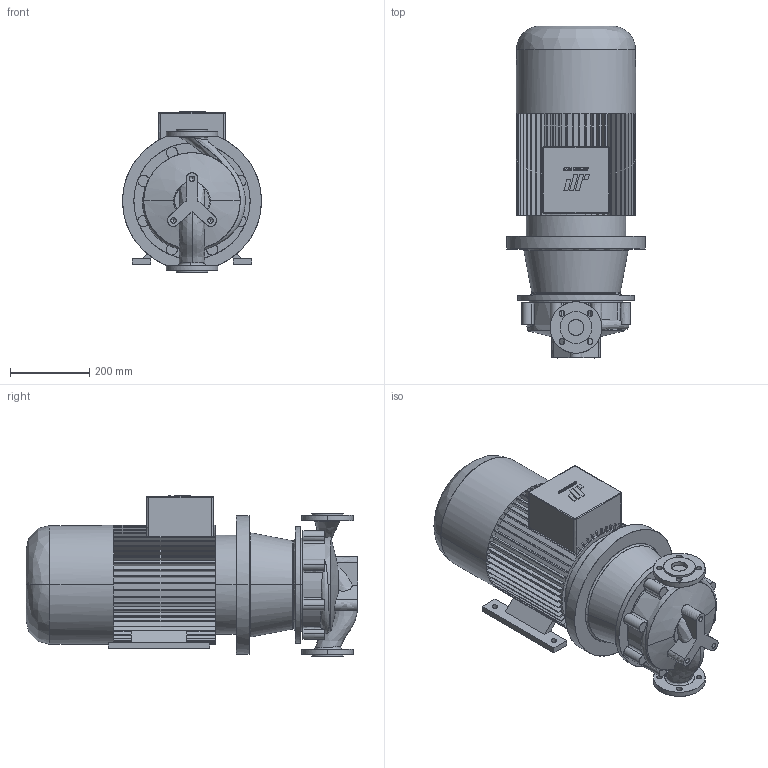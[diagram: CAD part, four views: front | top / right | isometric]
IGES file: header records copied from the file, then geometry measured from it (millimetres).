
Start section: CombiLine
Global section: file name: CLB_40-200_IEC160M.igs; native system:  By UGS Corp.; preprocessor: XPlus GENERIC/IGES 3.0; author: Stageplaats; organization: Johnson Pump Water B.V.; date: 20070712.153109; units: millimetre
Bounding box: 350 x 836.5 x 405 mm (x, y, z)
Surface area: 1575391.6 mm2 (no closed solid volume)
Topology: 0 solids, 0 shells, 580 faces, 3532 edges, 3526 vertices
Faces by surface type: bspline 580
